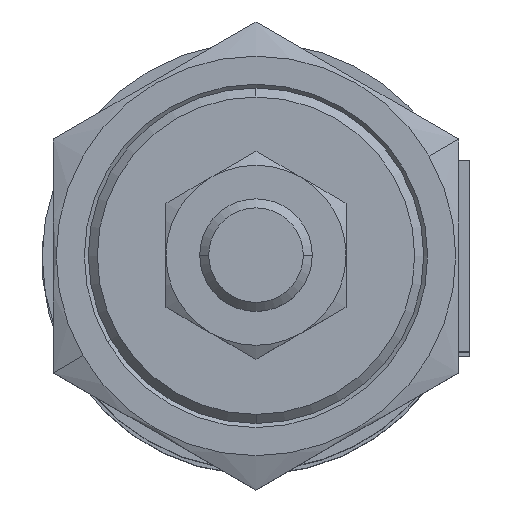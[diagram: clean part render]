
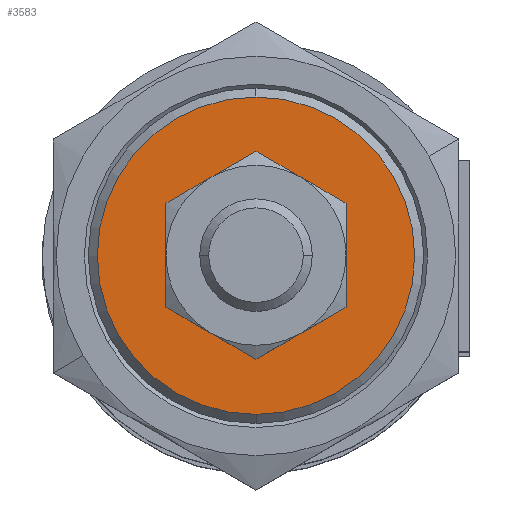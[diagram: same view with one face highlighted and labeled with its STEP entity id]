
A CAD part, top view. The second image highlights one B-rep face of the part: STEP entity #3583.
In plain terms, the highlighted planar face has unit normal (0, 0, 1).
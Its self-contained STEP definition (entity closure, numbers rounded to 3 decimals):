
#89 = EDGE_LOOP ( 'NONE', ( #10460, #4403 ) ) ;
#100 = EDGE_CURVE ( 'NONE', #8889, #7333, #4976, .T. ) ;
#228 = DIRECTION ( 'NONE',  ( 0., 1., 0. ) ) ;
#287 = DIRECTION ( 'NONE',  ( 0., 0., 1. ) ) ;
#673 = AXIS2_PLACEMENT_3D ( 'NONE', #3845, #8164, #9929 ) ;
#795 = EDGE_CURVE ( 'NONE', #7333, #8889, #3917, .T. ) ;
#967 = PLANE ( 'NONE',  #1806 ) ;
#1806 = AXIS2_PLACEMENT_3D ( 'NONE', #8217, #9117, #9231 ) ;
#1819 = FACE_OUTER_BOUND ( 'NONE', #89, .T. ) ;
#2429 = EDGE_CURVE ( 'NONE', #6414, #8091, #2477, .T. ) ;
#2477 = CIRCLE ( 'NONE', #10464, 7.05 ) ;
#2801 = CARTESIAN_POINT ( 'NONE',  ( 0., 0., 235. ) ) ;
#3553 = AXIS2_PLACEMENT_3D ( 'NONE', #3985, #8120, #3869 ) ;
#3583 = ADVANCED_FACE ( 'NONE', ( #10770, #1819 ), #967, .T. ) ;
#3845 = CARTESIAN_POINT ( 'NONE',  ( 0., 0., 235. ) ) ;
#3869 = DIRECTION ( 'NONE',  ( 0., 1., 0. ) ) ;
#3889 = AXIS2_PLACEMENT_3D ( 'NONE', #10714, #287, #5505 ) ;
#3917 = CIRCLE ( 'NONE', #3553, 14.1 ) ;
#3985 = CARTESIAN_POINT ( 'NONE',  ( 0., 0., 235. ) ) ;
#4403 = ORIENTED_EDGE ( 'NONE', *, *, #100, .T. ) ;
#4942 = CARTESIAN_POINT ( 'NONE',  ( 0., -7.05, 235. ) ) ;
#4976 = CIRCLE ( 'NONE', #3889, 14.1 ) ;
#5505 = DIRECTION ( 'NONE',  ( 0., 1., 0. ) ) ;
#5658 = EDGE_CURVE ( 'NONE', #8091, #6414, #11043, .T. ) ;
#5806 = EDGE_LOOP ( 'NONE', ( #10424, #7310 ) ) ;
#6414 = VERTEX_POINT ( 'NONE', #4942 ) ;
#6434 = CARTESIAN_POINT ( 'NONE',  ( 0., -14.1, 235. ) ) ;
#7217 = DIRECTION ( 'NONE',  ( 0., 0., 1. ) ) ;
#7310 = ORIENTED_EDGE ( 'NONE', *, *, #2429, .F. ) ;
#7333 = VERTEX_POINT ( 'NONE', #6434 ) ;
#7426 = CARTESIAN_POINT ( 'NONE',  ( 0., 14.1, 235. ) ) ;
#8091 = VERTEX_POINT ( 'NONE', #8996 ) ;
#8120 = DIRECTION ( 'NONE',  ( 0., 0., 1. ) ) ;
#8164 = DIRECTION ( 'NONE',  ( 0., 0., 1. ) ) ;
#8217 = CARTESIAN_POINT ( 'NONE',  ( 0., 0., 235. ) ) ;
#8889 = VERTEX_POINT ( 'NONE', #7426 ) ;
#8996 = CARTESIAN_POINT ( 'NONE',  ( 0., 7.05, 235. ) ) ;
#9117 = DIRECTION ( 'NONE',  ( 0., 0., 1. ) ) ;
#9231 = DIRECTION ( 'NONE',  ( 0., 1., 0. ) ) ;
#9929 = DIRECTION ( 'NONE',  ( 0., 1., 0. ) ) ;
#10424 = ORIENTED_EDGE ( 'NONE', *, *, #5658, .F. ) ;
#10460 = ORIENTED_EDGE ( 'NONE', *, *, #795, .T. ) ;
#10464 = AXIS2_PLACEMENT_3D ( 'NONE', #2801, #7217, #228 ) ;
#10714 = CARTESIAN_POINT ( 'NONE',  ( 0., 0., 235. ) ) ;
#10770 = FACE_BOUND ( 'NONE', #5806, .T. ) ;
#11043 = CIRCLE ( 'NONE', #673, 7.05 ) ;
